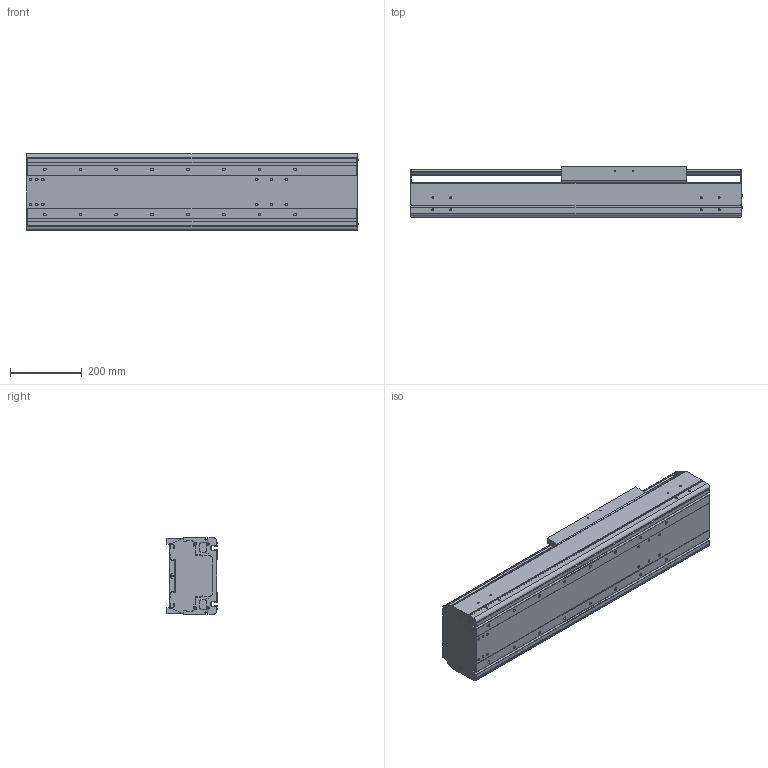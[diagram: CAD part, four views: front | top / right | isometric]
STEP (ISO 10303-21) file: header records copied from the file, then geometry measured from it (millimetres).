
FILE_DESCRIPTION((''),'2;1');
FILE_NAME('BE60J-ST-L_B-35_IGS_PRT','2017-06-18T',(' '),(''),'PRO/ENGINEER BY PARAMETRIC TECHNOLOGY CORPORATION, 2015030','PRO/ENGINEER BY PARAMETRIC TECHNOLOGY CORPORATION, 2015030','');
FILE_SCHEMA(('CONFIG_CONTROL_DESIGN'));
Length unit declared in the file: millimetre
Products named in the file (1): BE60J-ST-L_B-35_IGS_PRT
Bounding box: 927.4 x 140 x 214 mm (x, y, z)
Volume: 8042279.6 mm3; surface area: 2107709 mm2
Topology: 2 solids, 32 shells, 1101 faces, 2940 edges, 1890 vertices
Faces by surface type: plane 517, cylinder 476, cone 60, sphere 24, torus 24
Entity records: 34677 total; most frequent: CARTESIAN_POINT 6552, DIRECTION 6010, ORIENTED_EDGE 5648, EDGE_CURVE 2880, AXIS2_PLACEMENT_3D 2146, VERTEX_POINT 1888, VECTOR 1718, LINE 1718
